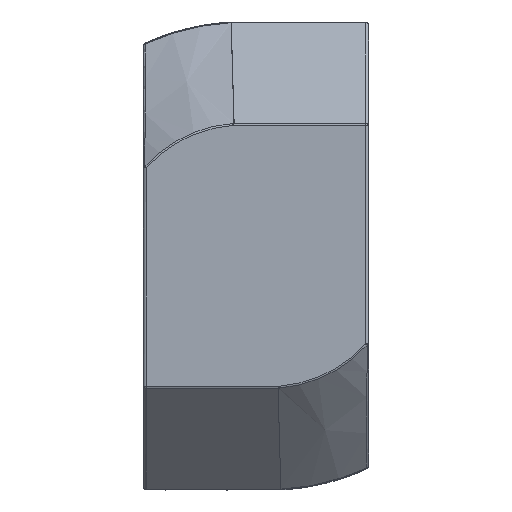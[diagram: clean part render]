
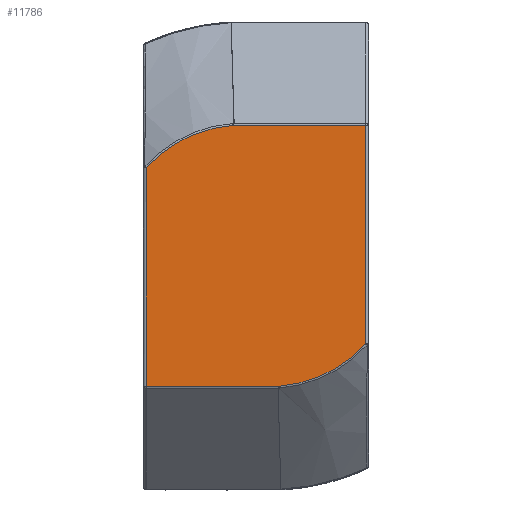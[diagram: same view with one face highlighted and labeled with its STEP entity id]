
A CAD part, top view. The second image highlights one B-rep face of the part: STEP entity #11786.
In plain terms, the highlighted planar face has unit normal (0, 0, 1).
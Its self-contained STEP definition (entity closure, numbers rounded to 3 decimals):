
#202 = CARTESIAN_POINT ( 'NONE',  ( -0.804, 4.459, 4.5 ) ) ;
#5459 = CARTESIAN_POINT ( 'NONE',  ( 0.446, -0.01, 4.5 ) ) ;
#5460 = PLANE ( 'NONE',  #21678 ) ;
#5465 = DIRECTION ( 'NONE',  ( 0., 0., 1. ) ) ;
#5466 = DIRECTION ( 'NONE',  ( 1., 0., 0. ) ) ;
#7118 = AXIS2_PLACEMENT_3D ( 'NONE', #24599, #24601, #24602 ) ;
#7120 = AXIS2_PLACEMENT_3D ( 'NONE', #24578, #24608, #24609 ) ;
#8198 = CARTESIAN_POINT ( 'NONE',  ( 0.804, -4.459, 4.5 ) ) ;
#8429 = CARTESIAN_POINT ( 'NONE',  ( 3.75, -3.01, 4.5 ) ) ;
#8495 = CARTESIAN_POINT ( 'NONE',  ( -3.75, 3.01, 4.5 ) ) ;
#8508 = CARTESIAN_POINT ( 'NONE',  ( -3.75, -4.459, 4.5 ) ) ;
#8531 = CARTESIAN_POINT ( 'NONE',  ( 3.75, 4.459, 4.5 ) ) ;
#9091 = VERTEX_POINT ( 'NONE', #8531 ) ;
#9173 = VERTEX_POINT ( 'NONE', #8495 ) ;
#9192 = VERTEX_POINT ( 'NONE', #8508 ) ;
#9211 = VERTEX_POINT ( 'NONE', #8429 ) ;
#9260 = VERTEX_POINT ( 'NONE', #8198 ) ;
#9695 = ORIENTED_EDGE ( 'NONE', *, *, #21486, .T. ) ;
#9697 = ORIENTED_EDGE ( 'NONE', *, *, #21484, .T. ) ;
#9699 = ORIENTED_EDGE ( 'NONE', *, *, #21488, .T. ) ;
#9702 = ORIENTED_EDGE ( 'NONE', *, *, #21485, .T. ) ;
#9704 = ORIENTED_EDGE ( 'NONE', *, *, #21487, .T. ) ;
#9709 = ORIENTED_EDGE ( 'NONE', *, *, #21489, .T. ) ;
#11786 = ADVANCED_FACE ( 'NONE', ( #22194 ), #5460, .T. ) ;
#11903 = EDGE_LOOP ( 'NONE', ( #9702, #9695, #9704, #9697, #9709, #9699 ) ) ;
#21484 = EDGE_CURVE ( 'NONE', #9192, #9260, #23926, .T. ) ;
#21485 = EDGE_CURVE ( 'NONE', #9091, #25519, #23925, .T. ) ;
#21486 = EDGE_CURVE ( 'NONE', #25519, #9173, #23930, .T. ) ;
#21487 = EDGE_CURVE ( 'NONE', #9173, #9192, #23924, .T. ) ;
#21488 = EDGE_CURVE ( 'NONE', #9211, #9091, #23931, .T. ) ;
#21489 = EDGE_CURVE ( 'NONE', #9260, #9211, #23934, .T. ) ;
#21678 = AXIS2_PLACEMENT_3D ( 'NONE', #5459, #5465, #5466 ) ;
#22194 = FACE_OUTER_BOUND ( 'NONE', #11903, .T. ) ;
#23916 = VECTOR ( 'NONE', #24598, 1000. ) ;
#23922 = VECTOR ( 'NONE', #24604, 1000. ) ;
#23924 = LINE ( 'NONE', #24603, #23922 ) ;
#23925 = LINE ( 'NONE', #24596, #23927 ) ;
#23926 = LINE ( 'NONE', #24597, #23916 ) ;
#23927 = VECTOR ( 'NONE', #24600, 1000. ) ;
#23930 = CIRCLE ( 'NONE', #7118, 4.463 ) ;
#23931 = LINE ( 'NONE', #24605, #23932 ) ;
#23932 = VECTOR ( 'NONE', #24606, 1000. ) ;
#23934 = CIRCLE ( 'NONE', #7120, 4.463 ) ;
#24578 = CARTESIAN_POINT ( 'NONE',  ( 0.446, -0.01, 4.5 ) ) ;
#24596 = CARTESIAN_POINT ( 'NONE',  ( 0.446, 4.459, 4.5 ) ) ;
#24597 = CARTESIAN_POINT ( 'NONE',  ( 0.446, -4.459, 4.5 ) ) ;
#24598 = DIRECTION ( 'NONE',  ( 1., 0., 0. ) ) ;
#24599 = CARTESIAN_POINT ( 'NONE',  ( -0.446, 0.01, 4.5 ) ) ;
#24600 = DIRECTION ( 'NONE',  ( -1., 0., 0. ) ) ;
#24601 = DIRECTION ( 'NONE',  ( 0., 0., 1. ) ) ;
#24602 = DIRECTION ( 'NONE',  ( 1., 0., 0. ) ) ;
#24603 = CARTESIAN_POINT ( 'NONE',  ( -3.75, -4.5, 4.5 ) ) ;
#24604 = DIRECTION ( 'NONE',  ( 0., -1., 0. ) ) ;
#24605 = CARTESIAN_POINT ( 'NONE',  ( 3.75, 4.5, 4.5 ) ) ;
#24606 = DIRECTION ( 'NONE',  ( 0., 1., 0. ) ) ;
#24608 = DIRECTION ( 'NONE',  ( 0., 0., 1. ) ) ;
#24609 = DIRECTION ( 'NONE',  ( 1., 0., 0. ) ) ;
#25519 = VERTEX_POINT ( 'NONE', #202 ) ;
